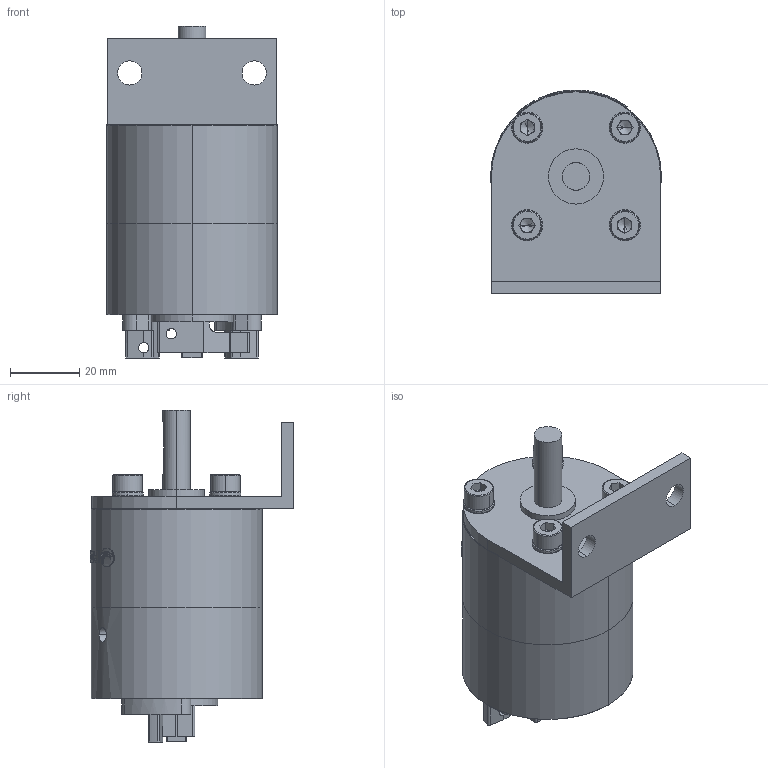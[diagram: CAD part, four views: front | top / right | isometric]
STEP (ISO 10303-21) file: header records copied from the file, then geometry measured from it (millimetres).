
FILE_DESCRIPTION (( 'STEP AP203' ), '1' );
FILE_NAME ('PROA20S-#-#-L1.STEP', '2016-02-04T07:04:08', ( 'Sam Lin' ), ( '' ), 'SwSTEP 2.0', 'SolidWorks 2013', '' );
FILE_SCHEMA (( 'CONFIG_CONTROL_DESIGN' ));
Length unit declared in the file: metre
Products named in the file (11): PROA20S-#-# (3); PROA20S-#-#-L1; PROA20S-#-# (1); PROA20S-#-# (4); PROA20S-#-# (6); mark-PROA20S; PROA20S-#-#-L1 (7); ISO 4762 M5 x 10; M5墊片T=1.3; PROA20S-#-# (2); 鏡射PROA20S-#-# (4)
Assembly tree (16 placements, depth 2):
  PROA20S-#-#-L1
    PROA20S-#-# (2)
    PROA20S-#-# (3)
    PROA20S-#-# (1)
    PROA20S-#-# (4)
    PROA20S-#-# (6)
    mark-PROA20S
    PROA20S-#-#-L1 (7)
    ISO 4762 M5 x 10  x4
    M5墊片T=1.3  x4
    鏡射PROA20S-#-# (4)
Bounding box: 49.5 x 59.03 x 96.1 mm (x, y, z)
Volume: 123207.7 mm3; surface area: 37186.9 mm2
Topology: 22 solids, 22 shells, 531 faces, 1299 edges, 831 vertices
Faces by surface type: cylinder 213, plane 211, bspline 67, cone 40
Entity records: 18722 total; most frequent: CARTESIAN_POINT 7509, ORIENTED_EDGE 2050, DIRECTION 2018, EDGE_CURVE 1025, AXIS2_PLACEMENT_3D 768, VERTEX_POINT 678, EDGE_LOOP 507, VECTOR 482
